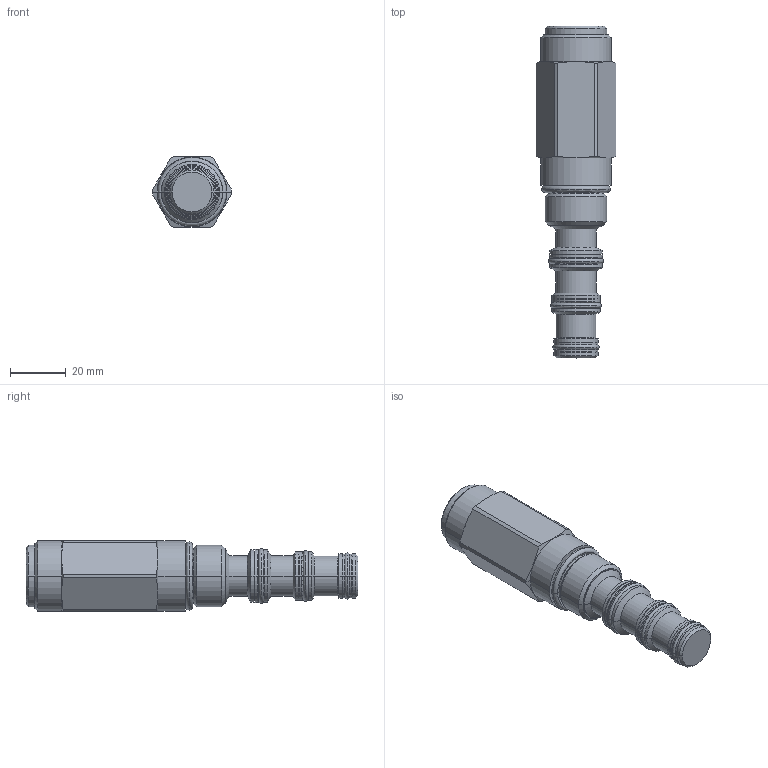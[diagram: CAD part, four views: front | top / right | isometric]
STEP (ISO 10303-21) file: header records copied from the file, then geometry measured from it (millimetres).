
FILE_DESCRIPTION((''),'2;1');
FILE_NAME('PRT0010','2009-03-24T',('JCS'),(''),'PRO/ENGINEER BY PARAMETRIC TECHNOLOGY CORPORATION, 2008510','PRO/ENGINEER BY PARAMETRIC TECHNOLOGY CORPORATION, 2008510','');
FILE_SCHEMA(('CONFIG_CONTROL_DESIGN'));
Length unit declared in the file: inch
Products named in the file (1): PRT0010
Bounding box: 28.57 x 119.04 x 25.4 mm (x, y, z)
Volume: 44902.3 mm3; surface area: 11647.3 mm2
Topology: 5 solids, 5 shells, 165 faces, 342 edges, 194 vertices
Faces by surface type: cylinder 54, revolution 32, torus 30, cone 26, plane 23
Entity records: 5018 total; most frequent: CARTESIAN_POINT 1407, DIRECTION 808, ORIENTED_EDGE 684, AXIS2_PLACEMENT_3D 345, EDGE_CURVE 342, CIRCLE 212, VERTEX_POINT 194, EDGE_LOOP 180
